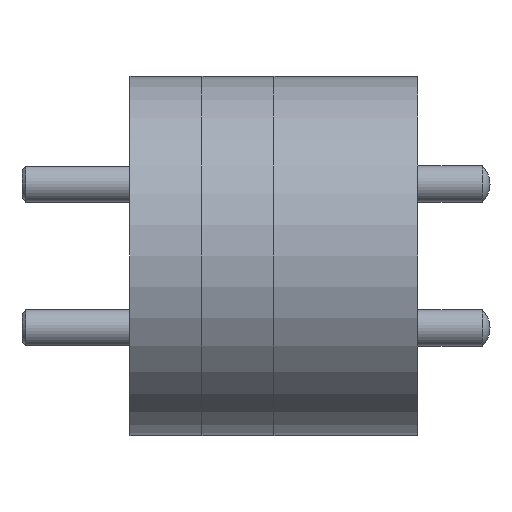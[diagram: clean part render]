
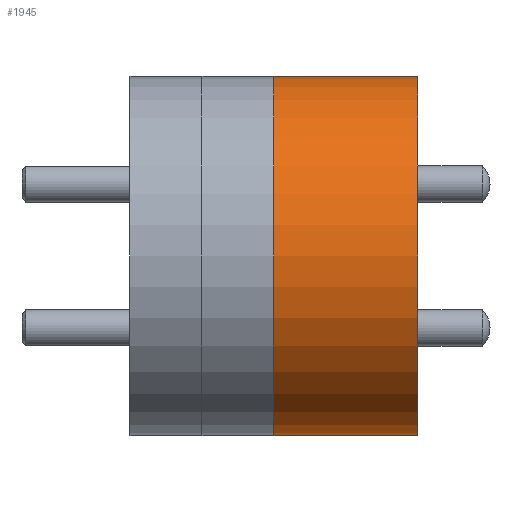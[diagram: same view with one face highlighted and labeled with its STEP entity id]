
A CAD part, left-side view. The second image highlights one B-rep face of the part: STEP entity #1945.
In plain terms, the highlighted cylindrical face has radius 2.5 mm (diameter 5 mm), a partial arc.
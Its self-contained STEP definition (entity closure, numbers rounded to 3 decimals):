
#319=CARTESIAN_POINT('',(-6.5,2.,0.));
#320=DIRECTION('',(0.,-1.,0.));
#321=DIRECTION('',(0.,0.,1.));
#322=AXIS2_PLACEMENT_3D('',#319,#320,#321);
#334=DIRECTION('',(0.,-1.,0.));
#335=VECTOR('',#334,2.);
#336=CARTESIAN_POINT('',(-6.5,2.,2.5));
#337=LINE('',#336,#335);
#338=DIRECTION('',(0.,1.,0.));
#339=VECTOR('',#338,2.);
#340=CARTESIAN_POINT('',(-6.5,0.,-2.5));
#341=LINE('',#340,#339);
#342=CARTESIAN_POINT('',(-6.5,0.,0.));
#343=DIRECTION('',(0.,1.,0.));
#344=DIRECTION('',(0.,0.,-1.));
#345=AXIS2_PLACEMENT_3D('',#342,#343,#344);
#1245=CARTESIAN_POINT('',(-6.5,0.,2.5));
#1246=VERTEX_POINT('',#1245);
#1247=CARTESIAN_POINT('',(-6.5,2.,2.5));
#1248=VERTEX_POINT('',#1247);
#1385=CARTESIAN_POINT('',(-6.5,0.,-2.5));
#1386=VERTEX_POINT('',#1385);
#1477=CARTESIAN_POINT('',(-6.5,2.,-2.5));
#1478=VERTEX_POINT('',#1477);
#1932=CARTESIAN_POINT('',(-6.5,9.214,0.));
#1933=DIRECTION('',(0.,-1.,0.));
#1934=DIRECTION('',(0.,0.,1.));
#1935=AXIS2_PLACEMENT_3D('',#1932,#1933,#1934);
#1936=CYLINDRICAL_SURFACE('',#1935,2.5);
#1937=ORIENTED_EDGE('',*,*,#1922,.F.);
#1938=ORIENTED_EDGE('',*,*,#1610,.T.);
#1940=ORIENTED_EDGE('',*,*,#1939,.F.);
#1942=ORIENTED_EDGE('',*,*,#1941,.T.);
#1943=EDGE_LOOP('',(#1937,#1938,#1940,#1942));
#1944=FACE_OUTER_BOUND('',#1943,.F.);
#1945=ADVANCED_FACE('',(#1944),#1936,.T.);
#323=CIRCLE('',#322,2.5);
#346=CIRCLE('',#345,2.5);
#1610=EDGE_CURVE('',#1248,#1246,#337,.T.);
#1922=EDGE_CURVE('',#1248,#1478,#323,.T.);
#1939=EDGE_CURVE('',#1386,#1246,#346,.T.);
#1941=EDGE_CURVE('',#1386,#1478,#341,.T.);
